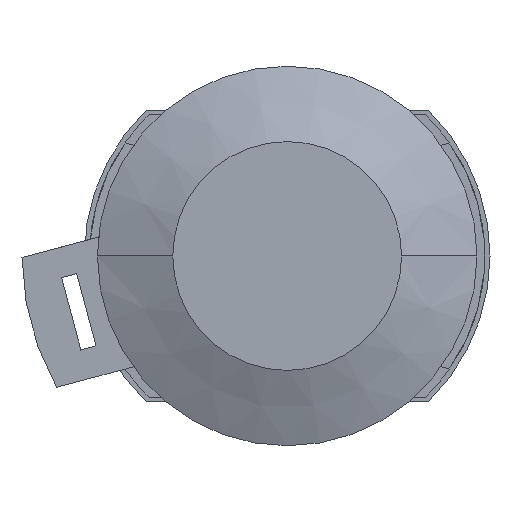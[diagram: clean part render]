
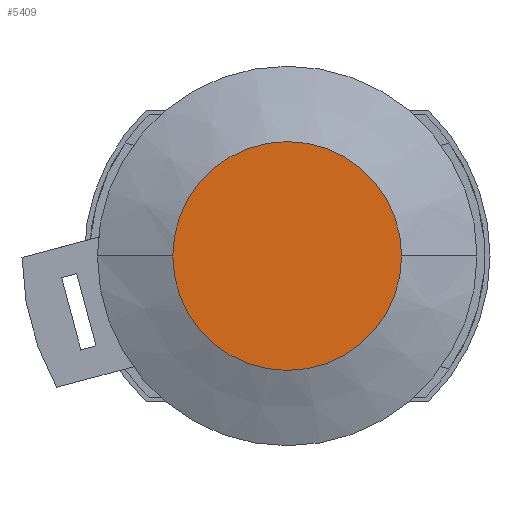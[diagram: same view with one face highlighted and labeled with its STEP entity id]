
A CAD part, left-side view. The second image highlights one B-rep face of the part: STEP entity #5409.
In plain terms, the highlighted planar face has unit normal (-1, 0, 0).
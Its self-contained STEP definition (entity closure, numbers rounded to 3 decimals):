
#4483 = FACE_OUTER_BOUND ( 'NONE', #5758, .T. ) ;
#4484 = PLANE ( 'NONE',  #4485 ) ;
#4485 = AXIS2_PLACEMENT_3D ( 'NONE', #4493, #4494, #4495 ) ;
#4493 = CARTESIAN_POINT ( 'NONE',  ( -12.5, 5.5, 0. ) ) ;
#4494 = DIRECTION ( 'NONE',  ( -1., 0., 0. ) ) ;
#4495 = DIRECTION ( 'NONE',  ( 0., 0., 1. ) ) ;
#5192 = CIRCLE ( 'NONE', #5193, 11. ) ;
#5193 = AXIS2_PLACEMENT_3D ( 'NONE', #5194, #5195, #5200 ) ;
#5194 = CARTESIAN_POINT ( 'NONE',  ( -12.5, 0., 0. ) ) ;
#5195 = DIRECTION ( 'NONE',  ( 1., 0., 0. ) ) ;
#5200 = DIRECTION ( 'NONE',  ( 0., 1., 0. ) ) ;
#5409 = ADVANCED_FACE ( 'NONE', ( #4483 ), #4484, .T. ) ;
#5725 = CIRCLE ( 'NONE', #5726, 11. ) ;
#5726 = AXIS2_PLACEMENT_3D ( 'NONE', #5727, #5728, #5729 ) ;
#5727 = CARTESIAN_POINT ( 'NONE',  ( -12.5, 0., 0. ) ) ;
#5728 = DIRECTION ( 'NONE',  ( 1., 0., 0. ) ) ;
#5729 = DIRECTION ( 'NONE',  ( 0., 1., 0. ) ) ;
#5758 = EDGE_LOOP ( 'NONE', ( #6240, #6761 ) ) ;
#6024 = CARTESIAN_POINT ( 'NONE',  ( -12.5, 11., 0. ) ) ;
#6232 = CARTESIAN_POINT ( 'NONE',  ( -12.5, -11., 0. ) ) ;
#6240 = ORIENTED_EDGE ( 'NONE', *, *, #7497, .F. ) ;
#6761 = ORIENTED_EDGE ( 'NONE', *, *, #6926, .F. ) ;
#6926 = EDGE_CURVE ( 'NONE', #7972, #7765, #5192, .T. ) ;
#7497 = EDGE_CURVE ( 'NONE', #7765, #7972, #5725, .T. ) ;
#7765 = VERTEX_POINT ( 'NONE', #6024 ) ;
#7972 = VERTEX_POINT ( 'NONE', #6232 ) ;
